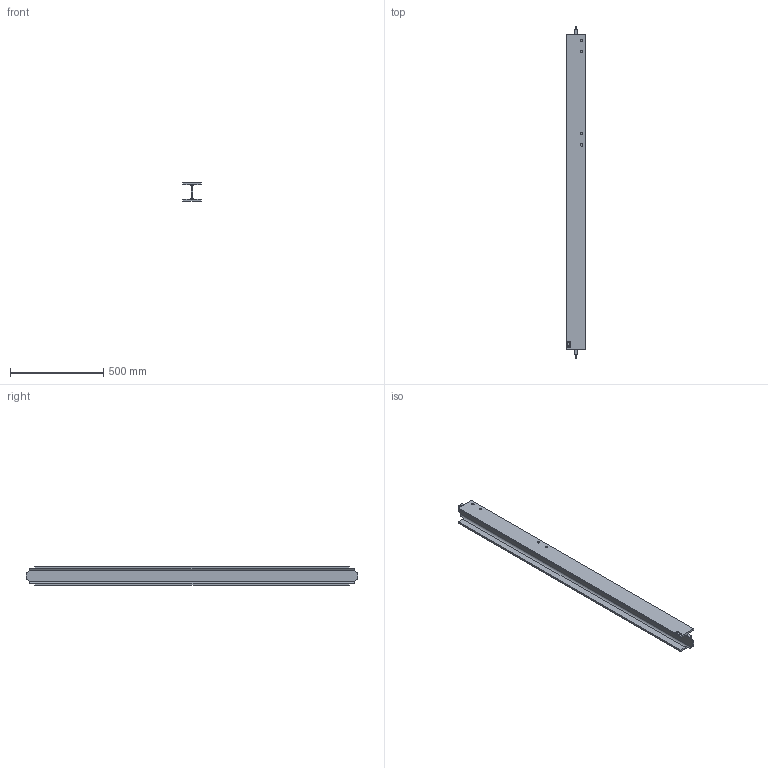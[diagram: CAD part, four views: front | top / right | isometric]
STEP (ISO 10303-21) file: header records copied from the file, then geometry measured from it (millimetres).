
FILE_DESCRIPTION (( 'STEP AP214' ), '1' );
FILE_NAME ('CCJ029-REP.015 - POUTRE A5-B6.STEP', '2025-02-13T07:37:56', ( '' ), ( '' ), 'SwSTEP 2.0', 'SolidWorks 2021', '' );
FILE_SCHEMA (( 'AUTOMOTIVE_DESIGN' ));
Length unit declared in the file: millimetre
Products named in the file (1): CCJ029-REP.015 - POUTRE A5-B6
Bounding box: 100 x 1780 x 100 mm (x, y, z)
Volume: 4422258 mm3; surface area: 976713.1 mm2
Topology: 1 solids, 1 shells, 71 faces, 195 edges, 130 vertices
Faces by surface type: plane 38, bspline 17, cylinder 16
Entity records: 3605 total; most frequent: CARTESIAN_POINT 1846, ORIENTED_EDGE 390, DIRECTION 295, EDGE_CURVE 195, VERTEX_POINT 130, VECTOR 121, LINE 121, AXIS2_PLACEMENT_3D 87
